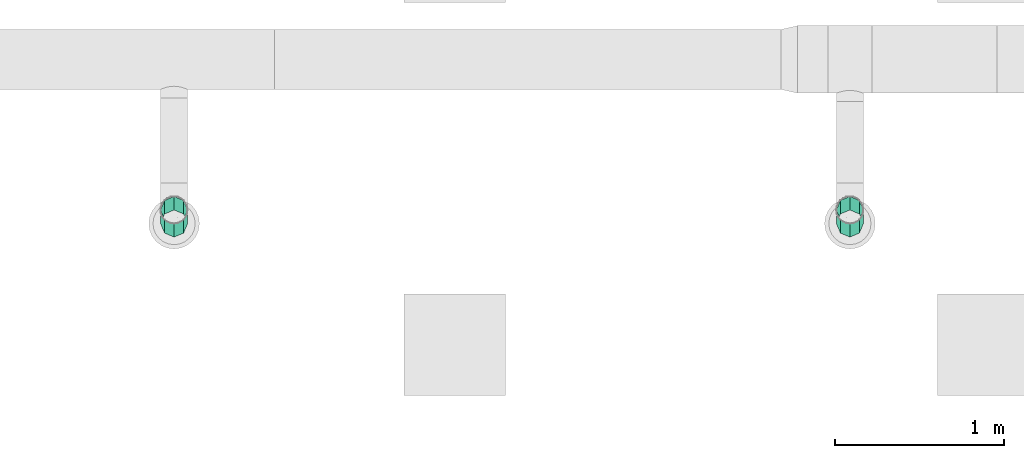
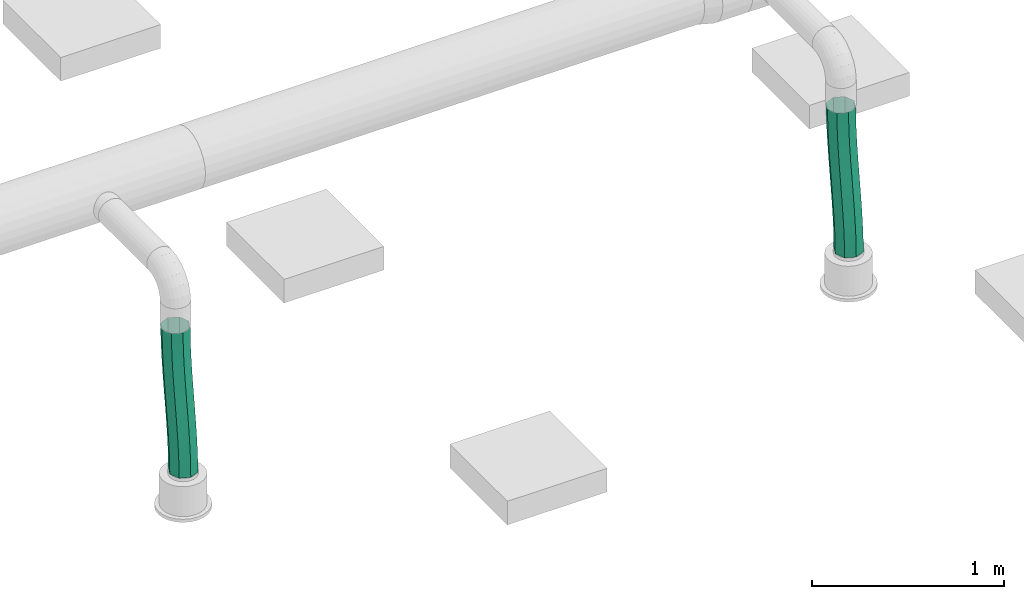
# One storey, part 245 of 374: 2 flow segments.
"""IFC2X3 building model written with IfcOpenShell, lengths in metres."""

from ifc_helpers import new_model, si_unit, direction, origin, place, context, subcontext, project, spatial, open_shell, surface_model, source, transform, mapped, element, save


model = new_model("IFC2X3")

# Units and contexts
model_context = context("Model", 3, precision=1e-05, world=origin(), true_north=direction((-0.4480736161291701, 0.8939966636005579)))
body_context = subcontext(model_context, "Body", "Model", "MODEL_VIEW")
ifc_project = project(units=[si_unit("LENGTHUNIT", "METRE"), si_unit("AREAUNIT", "SQUARE_METRE"), si_unit("VOLUMEUNIT", "CUBIC_METRE"), si_unit("PLANEANGLEUNIT", "RADIAN"), si_unit("THERMODYNAMICTEMPERATUREUNIT", "KELVIN"), si_unit("MASSUNIT", "GRAM", prefix="KILO"), si_unit("TIMEUNIT", "SECOND")], contexts=[model_context])

# Site, building, storey
site_placement = place(None, origin())
site = spatial("IfcSite", under=ifc_project, at=site_placement, Name="Site 1", CompositionType="ELEMENT")
building_placement = place(site_placement, origin())
building = spatial("IfcBuilding", under=site, at=building_placement, Name="Undefined", CompositionType="ELEMENT")
storey_placement = place(building_placement, origin())
storey = spatial("IfcBuildingStorey", under=building, at=storey_placement, Name="Rez de chauss\x8ee", CompositionType="ELEMENT", Elevation=0.0)

# Flow segments
shared_shape_1 = source(origin(), body_context, "Body", "SurfaceModel", [
    surface_model("IfcFaceBasedSurfaceModel", [(0.09591138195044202, 3.552713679e-15, 0.0), (0.05777895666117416, 0.04790565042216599, 0.0), (0.0, 0.0, 0.0), (0.03990852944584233, -0.046436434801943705, -1.080230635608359e-06), (-0.0557670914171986, -0.04966194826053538, -0.0010921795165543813), (-0.01440322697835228, -0.09480686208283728, -0.001066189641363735), (-0.10982704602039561, -0.10061373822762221, -0.0030471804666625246), (-0.06736210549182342, -0.14472448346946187, -0.002982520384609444), (-0.16253987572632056, -0.15244488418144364, -0.005638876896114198), (-0.11930632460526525, -0.19580250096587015, -0.005537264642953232), (-0.21426131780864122, -0.204753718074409, -0.008645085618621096), (-0.1705741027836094, -0.24765411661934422, -0.008517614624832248), (-0.2653408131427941, -0.25714538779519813, -0.01184746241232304), (-0.2215036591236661, -0.2998925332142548, -0.01171076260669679), (-0.31612043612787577, -0.30923056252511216, -0.01503137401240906), (-0.27243321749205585, -0.35213095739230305, -0.01490390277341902), (-0.3669345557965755, -0.36062497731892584, -0.017985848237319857), (-0.32370099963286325, -0.40398258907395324, -0.01788423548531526), (-0.4181101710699, -0.4109498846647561, -0.020503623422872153), (-0.3756452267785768, -0.4550606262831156, -0.020438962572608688), (-0.46996798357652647, -0.45983335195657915, -0.022381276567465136), (-0.4286041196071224, -0.5049782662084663, -0.022355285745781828), (-0.522824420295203, -0.5069122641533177, -0.023419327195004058), (-0.482915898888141, -0.5533487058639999, -0.02342040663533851), (-0.5770511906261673, -0.5518794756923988, -0.02342152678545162), (-0.5389187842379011, -0.5997851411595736, -0.02342152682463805), (0.030535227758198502, 0.08155715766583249, -0.04329420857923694), (-0.027979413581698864, 0.03304293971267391, -0.0432937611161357), (-0.08434932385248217, -0.01715397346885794, -0.04439715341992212), (-0.13886535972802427, -0.0685341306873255, -0.046368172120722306), (-0.19189656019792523, -0.12067723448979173, -0.048975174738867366), (-0.24380591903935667, -0.17317545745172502, -0.05199209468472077), (-0.29494752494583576, -0.22563061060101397, -0.05519829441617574), (-0.34566504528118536, -0.27765230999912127, -0.05837838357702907), (-0.3962912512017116, -0.32885733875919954, -0.061322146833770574), (-0.44714849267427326, -0.378870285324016, -0.06382461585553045), (-0.498550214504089, -0.4273253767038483, -0.06568625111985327), (-0.5508038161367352, -0.47386931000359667, -0.06671308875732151), (-0.6042948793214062, -0.518227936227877, -0.06671573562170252), (0.030139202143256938, 0.08124192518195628, -0.10452146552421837), (-0.027639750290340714, 0.03333627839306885, -0.10452146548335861), (-0.08340684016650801, -0.016325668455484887, -0.10561364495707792), (-0.13746679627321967, -0.06727745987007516, -0.10756864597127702), (-0.19017963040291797, -0.11910861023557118, -0.1101603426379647), (-0.24190107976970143, -0.1714174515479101, -0.11316655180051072), (-0.2929805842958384, -0.22380913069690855, -0.11636892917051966), (-0.343760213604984, -0.27589431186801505, -0.11955284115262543), (-0.3945743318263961, -0.3272887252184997, -0.1225073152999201), (-0.4457499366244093, -0.3776136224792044, -0.12502509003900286), (-0.49760772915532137, -0.42649707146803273, -0.12690274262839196), (-0.5504641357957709, -0.4735759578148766, -0.12794079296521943), (-0.6046908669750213, -0.5185431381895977, -0.12794299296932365), (0.05682286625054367, 0.047144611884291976, -0.14781567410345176), (0.0008200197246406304, 0.0007081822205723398, -0.14781675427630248), (-0.05349173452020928, -0.047662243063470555, -0.14888186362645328), (-0.10645061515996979, -0.09757986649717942, -0.15079819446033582), (-0.1583948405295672, -0.14865789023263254, -0.15335293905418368), (-0.20966262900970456, -0.20050951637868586, -0.1563332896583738), (-0.2605921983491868, -0.2527479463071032, -0.15952643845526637), (-0.3115217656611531, -0.30498637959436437, -0.16271957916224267), (-0.36278954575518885, -0.35683800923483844, -0.16569991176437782), (-0.4147337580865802, -0.407916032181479, -0.16825463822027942), (-0.46769262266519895, -0.4578336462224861, -0.17017096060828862), (-0.5220043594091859, -0.5062040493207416, -0.17123608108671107), (-0.5780071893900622, -0.5526404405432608, -0.17123720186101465), (0.09495529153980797, -0.0007610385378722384, -0.14781567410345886), (0.04072854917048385, -0.04572825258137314, -0.14781783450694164), (-0.012127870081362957, -0.09280715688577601, -0.14885587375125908), (-0.06398567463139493, -0.1416906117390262, -0.15073353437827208), (-0.11516128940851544, -0.19201550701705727, -0.15325132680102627), (-0.16597541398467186, -0.24340991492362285, -0.15620581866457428), (-0.21675504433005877, -0.29549509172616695, -0.15938973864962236), (-0.2678345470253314, -0.34788677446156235, -0.16259210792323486), (-0.3195559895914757, -0.4001956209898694, -0.16559829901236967), (-0.3722688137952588, -0.45202677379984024, -0.1681899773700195), (-0.4263287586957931, -0.5029785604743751, -0.17014496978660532), (-0.48209583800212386, -0.5526404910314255, -0.1712371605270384), (-0.5398747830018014, -0.6005461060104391, -0.17123720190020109), (0.12219902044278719, -0.03441254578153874, -0.10452146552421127), (0.06870796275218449, -0.07877119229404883, -0.10452407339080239), (0.016454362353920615, -0.12531513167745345, -0.10555089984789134), (-0.03494736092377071, -0.17377021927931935, -0.10741254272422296), (-0.08580460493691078, -0.22378315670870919, -0.1099150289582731), (-0.13643081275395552, -0.2749881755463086, -0.11285880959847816), (-0.187148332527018, -0.32700986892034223, -0.11603890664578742), (-0.23828993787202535, -0.37946502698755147, -0.11924509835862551), (-0.29019929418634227, -0.4319632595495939, -0.12226200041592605), (-0.3432304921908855, -0.48410637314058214, -0.12486898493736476), (-0.39774652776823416, -0.5354865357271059, -0.12683999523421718), (-0.454116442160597, -0.5856834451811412, -0.12794339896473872), (-0.5126310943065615, -0.6341976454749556, -0.1279429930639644), (0.1225950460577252, -0.034097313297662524, -0.04329420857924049), (0.0683682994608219, -0.07906453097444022, -0.04329636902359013), (0.015511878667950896, -0.12614343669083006, -0.04433440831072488), (-0.03634592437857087, -0.1750268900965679, -0.04621206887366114), (-0.08752153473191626, -0.22535178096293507, -0.048729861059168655), (-0.1383356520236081, -0.27674618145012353, -0.051684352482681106), (-0.1891152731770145, -0.3288313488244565, -0.05486827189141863), (-0.24019476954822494, -0.38122302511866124, -0.05807064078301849), (-0.291916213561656, -0.43353187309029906, -0.061076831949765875), (-0.3446290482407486, -0.48536303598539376, -0.0636685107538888), (-0.3986890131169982, -0.5363148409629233, -0.06562350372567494), (-0.4544561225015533, -0.5859767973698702, -0.06671569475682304), (-0.5122351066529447, -0.6338824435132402, -0.06671573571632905)], [open_shell([[[0, 1, 2]], [[2, 3, 0]], [[3, 2, 4]], [[4, 5, 3]], [[5, 4, 6]], [[6, 7, 5]], [[7, 6, 8]], [[8, 9, 7]], [[9, 8, 10]], [[10, 11, 9]], [[11, 10, 12]], [[12, 13, 11]], [[13, 12, 14]], [[14, 15, 13]], [[15, 14, 16]], [[16, 17, 15]], [[17, 16, 18]], [[18, 19, 17]], [[19, 18, 20]], [[20, 21, 19]], [[21, 20, 22]], [[22, 23, 21]], [[23, 22, 24]], [[24, 25, 23]], [[1, 26, 27]], [[27, 2, 1]], [[2, 27, 28]], [[28, 4, 2]], [[4, 28, 29]], [[29, 6, 4]], [[6, 29, 30]], [[30, 8, 6]], [[8, 30, 31]], [[31, 10, 8]], [[10, 31, 32]], [[32, 12, 10]], [[12, 32, 33]], [[33, 14, 12]], [[14, 33, 34]], [[34, 16, 14]], [[16, 34, 35]], [[35, 18, 16]], [[18, 35, 36]], [[36, 20, 18]], [[20, 36, 37]], [[37, 22, 20]], [[22, 37, 38]], [[38, 24, 22]], [[26, 39, 40]], [[40, 27, 26]], [[27, 40, 41]], [[41, 28, 27]], [[28, 41, 42]], [[42, 29, 28]], [[29, 42, 43]], [[43, 30, 29]], [[30, 43, 44]], [[44, 31, 30]], [[31, 44, 45]], [[45, 32, 31]], [[32, 45, 46]], [[46, 33, 32]], [[33, 46, 47]], [[47, 34, 33]], [[34, 47, 48]], [[48, 35, 34]], [[35, 48, 49]], [[49, 36, 35]], [[36, 49, 50]], [[50, 37, 36]], [[37, 50, 51]], [[51, 38, 37]], [[39, 52, 53]], [[53, 40, 39]], [[40, 53, 54]], [[54, 41, 40]], [[41, 54, 55]], [[55, 42, 41]], [[42, 55, 56]], [[56, 43, 42]], [[43, 56, 57]], [[57, 44, 43]], [[44, 57, 58]], [[58, 45, 44]], [[45, 58, 59]], [[59, 46, 45]], [[46, 59, 60]], [[60, 47, 46]], [[47, 60, 61]], [[61, 48, 47]], [[48, 61, 62]], [[62, 49, 48]], [[49, 62, 63]], [[63, 50, 49]], [[50, 63, 64]], [[64, 51, 50]], [[52, 65, 66]], [[66, 53, 52]], [[53, 66, 67]], [[67, 54, 53]], [[54, 67, 68]], [[68, 55, 54]], [[55, 68, 69]], [[69, 56, 55]], [[56, 69, 70]], [[70, 57, 56]], [[57, 70, 71]], [[71, 58, 57]], [[58, 71, 72]], [[72, 59, 58]], [[59, 72, 73]], [[73, 60, 59]], [[60, 73, 74]], [[74, 61, 60]], [[61, 74, 75]], [[75, 62, 61]], [[62, 75, 76]], [[76, 63, 62]], [[63, 76, 77]], [[77, 64, 63]], [[65, 78, 79]], [[79, 66, 65]], [[66, 79, 80]], [[80, 67, 66]], [[67, 80, 81]], [[81, 68, 67]], [[68, 81, 82]], [[82, 69, 68]], [[69, 82, 83]], [[83, 70, 69]], [[70, 83, 84]], [[84, 71, 70]], [[71, 84, 85]], [[85, 72, 71]], [[72, 85, 86]], [[86, 73, 72]], [[73, 86, 87]], [[87, 74, 73]], [[74, 87, 88]], [[88, 75, 74]], [[75, 88, 89]], [[89, 76, 75]], [[76, 89, 90]], [[90, 77, 76]], [[78, 91, 92]], [[92, 79, 78]], [[79, 92, 93]], [[93, 80, 79]], [[80, 93, 94]], [[94, 81, 80]], [[81, 94, 95]], [[95, 82, 81]], [[82, 95, 96]], [[96, 83, 82]], [[83, 96, 97]], [[97, 84, 83]], [[84, 97, 98]], [[98, 85, 84]], [[85, 98, 99]], [[99, 86, 85]], [[86, 99, 100]], [[100, 87, 86]], [[87, 100, 101]], [[101, 88, 87]], [[88, 101, 102]], [[102, 89, 88]], [[89, 102, 103]], [[103, 90, 89]], [[91, 0, 3]], [[3, 92, 91]], [[92, 3, 5]], [[5, 93, 92]], [[93, 5, 7]], [[7, 94, 93]], [[94, 7, 9]], [[9, 95, 94]], [[95, 9, 11]], [[11, 96, 95]], [[96, 11, 13]], [[13, 97, 96]], [[97, 13, 15]], [[15, 98, 97]], [[98, 15, 17]], [[17, 99, 98]], [[99, 17, 19]], [[19, 100, 99]], [[100, 19, 21]], [[21, 101, 100]], [[101, 21, 23]], [[23, 102, 101]], [[102, 23, 25]], [[25, 103, 102]]])]),
])
flow_segment_1_placement = place(storey_placement, origin())
element("IfcFlowSegment", 1, at=flow_segment_1_placement, inside=storey, Name="Tube flexible", ObjectType="Tube flexible", context=body_context, shape_type="MappedRepresentation", body=[
    mapped(shared_shape_1, transform((34.2334323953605, 2.014947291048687, 3.404961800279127), x_axis=(-0.24430322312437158, -0.572898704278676, 0.78237012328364), y_axis=(0.294653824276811, 0.724810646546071, 0.6227589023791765), z_axis=(-0.923847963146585, 0.38267035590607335, -0.008266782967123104))),
])
shared_shape_2 = source(origin(), body_context, "Body", "SurfaceModel", [
    surface_model("IfcFaceBasedSurfaceModel", [(0.09591138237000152, -3.552713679e-15, 0.0), (0.05777895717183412, 0.04790565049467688, 0.0), (0.0, 0.0, 0.0), (0.03990852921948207, -0.04643643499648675, -1.0802420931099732e-06), (-0.05576709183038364, -0.04966194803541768, -0.001092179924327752), (-0.01440322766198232, -0.09480686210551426, -0.0010661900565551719), (-0.10982704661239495, -0.10061373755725, -0.003047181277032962), (-0.06736210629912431, -0.14472448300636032, -0.0029825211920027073), (-0.1625398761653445, -0.1524448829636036, -0.00563887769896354), (-0.11930632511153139, -0.19580249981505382, -0.005537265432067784), (-0.21426131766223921, -0.2047537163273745, -0.008645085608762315), (-0.17057410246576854, -0.24765411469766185, -0.00851761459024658), (-0.26534081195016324, -0.2571453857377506, -0.01184746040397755), (-0.22150365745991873, -0.2998925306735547, -0.01171076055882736), (-0.31612043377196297, -0.30923056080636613, -0.0150313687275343), (-0.2724332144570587, -0.35213095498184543, -0.014903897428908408), (-0.36693455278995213, -0.3606249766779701, -0.017985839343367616), (-0.32370099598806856, -0.4039825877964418, -0.017884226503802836), (-0.4181101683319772, -0.4109498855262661, -0.02050361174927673), (-0.3756452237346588, -0.45506062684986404, -0.020438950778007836), (-0.46996798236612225, -0.4598333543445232, -0.022381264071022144), (-0.42860411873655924, -0.5049782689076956, -0.022355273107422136), (-0.522824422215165, -0.5069122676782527, -0.023419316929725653), (-0.48291590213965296, -0.5533487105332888, -0.023420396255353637), (-0.5770511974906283, -0.5518794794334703, -0.023421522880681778), (-0.5389187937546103, -0.5997851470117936, -0.02342152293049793), (0.030535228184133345, 0.08155715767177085, -0.04329420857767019), (-0.027979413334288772, 0.03304293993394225, -0.043293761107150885), (-0.08434932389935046, -0.017153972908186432, -0.04439715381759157), (-0.1388653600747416, -0.06853412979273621, -0.046368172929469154), (-0.19189656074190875, -0.12067723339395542, -0.04897517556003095), (-0.2438059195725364, -0.17317545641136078, -0.051992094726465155), (-0.29494752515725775, -0.2256306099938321, -0.05519829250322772), (-0.3456650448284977, -0.2776523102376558, -0.05837837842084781), (-0.3962912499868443, -0.32885733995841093, -0.061322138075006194), (-0.44714849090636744, -0.37887028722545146, -0.06382460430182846), (-0.49855021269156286, -0.4273253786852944, -0.06568623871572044), (-0.550803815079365, -0.4738693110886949, -0.0667130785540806), (-0.6042948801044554, -0.5182279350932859, -0.06671573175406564), (0.030139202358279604, 0.08124192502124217, -0.10452146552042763), (-0.027639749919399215, 0.03333627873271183, -0.1045214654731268), (-0.08340683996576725, -0.016325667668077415, -0.10561364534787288), (-0.13746679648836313, -0.06727745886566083, -0.10756864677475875), (-0.19017963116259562, -0.11910860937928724, -0.1101603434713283), (-0.24190108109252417, -0.1714174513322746, -0.11316655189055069), (-0.292980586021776, -0.22380913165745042, -0.11636892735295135), (-0.34376021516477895, -0.27589431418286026, -0.11955283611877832), (-0.39457433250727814, -0.3272887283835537, -0.12250730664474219), (-0.44574993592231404, -0.3776136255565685, -0.1250250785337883), (-0.4976077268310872, -0.42649707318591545, -0.1269027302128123), (-0.5504641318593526, -0.4735759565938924, -0.12794078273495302), (-0.6046908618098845, -0.5185431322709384, -0.12794298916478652), (0.05682286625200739, 0.04714461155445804, -0.1478156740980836), (0.0008200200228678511, 0.0007081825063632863, -0.14781675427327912), (-0.05349173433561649, -0.047662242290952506, -0.14888186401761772), (-0.10645061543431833, -0.09757986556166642, -0.1507981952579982), (-0.15839484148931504, -0.14865788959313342, -0.15335293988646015), (-0.20966263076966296, -0.20050951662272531, -0.15633328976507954), (-0.2605922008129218, -0.2527479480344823, -0.15952643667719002), (-0.31152176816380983, -0.30498638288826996, -0.1627195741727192), (-0.36278954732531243, -0.35683801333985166, -0.16569990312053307), (-0.41473375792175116, -0.40791603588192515, -0.16825462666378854), (-0.46769262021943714, -0.4578336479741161, -0.17017094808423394), (-0.522004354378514, -0.506204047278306, -0.1712360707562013), (-0.5780071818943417, -0.5526404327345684, -0.17123719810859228), (0.09495529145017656, -0.0007610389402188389, -0.14781567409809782), (0.04072854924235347, -0.04572825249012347, -0.14781783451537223), (-0.012127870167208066, -0.09280715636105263, -0.14885587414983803), (-0.0639856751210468, -0.14169061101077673, -0.15073353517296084), (-0.11516129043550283, -0.19201550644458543, -0.1532513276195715), (-0.16597541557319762, -0.2434099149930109, -0.15620581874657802), (-0.21675504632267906, -0.2954950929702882, -0.15938973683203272), (-0.26783454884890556, -0.3478867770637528, -0.162592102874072), (-0.31955599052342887, -0.4001956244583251, -0.16559829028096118), (-0.37226881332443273, -0.45202677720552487, -0.16818996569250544), (-0.42632875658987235, -0.502978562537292, -0.17014495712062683), (-0.48209583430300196, -0.5526404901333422, -0.17123715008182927), (-0.5398747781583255, -0.6005461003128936, -0.17123719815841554), (0.12219902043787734, -0.03441254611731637, -0.10452146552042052), (0.06870796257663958, -0.07877119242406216, -0.10452407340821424), (0.0164543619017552, -0.12531513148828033, -0.10555090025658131), (-0.03494736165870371, -0.17377021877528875, -0.10741254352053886), (-0.08580460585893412, -0.22378315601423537, -0.10991502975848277), (-0.13643081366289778, -0.2749881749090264, -0.11285880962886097), (-0.18714833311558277, -0.3270098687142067, -0.11603890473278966), (-0.23828993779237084, -0.3794650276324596, -0.1192450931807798), (-0.2901992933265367, -0.43196326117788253, -0.12226199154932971), (-0.3432304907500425, -0.4841063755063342, -0.12486897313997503), (-0.3977465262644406, -0.5354865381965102, -0.12683998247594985), (-0.454116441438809, -0.5856834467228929, -0.12794338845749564), (-0.5126310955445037, -0.6341976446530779, -0.12794298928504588), (0.12259504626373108, -0.03409731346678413, -0.04329420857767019), (0.06836829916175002, -0.0790645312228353, -0.04329636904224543), (0.01551187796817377, -0.12614343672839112, -0.04433440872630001), (-0.0363459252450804, -0.1750268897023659, -0.04621206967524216), (-0.0875215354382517, -0.22535178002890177, -0.048729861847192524), (-0.1383356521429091, -0.2767461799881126, -0.051684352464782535), (-0.18911527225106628, -0.32883134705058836, -0.05486826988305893), (-0.24019476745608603, -0.3812230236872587, -0.05807063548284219), (-0.2919162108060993, -0.43353187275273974, -0.061076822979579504), (-0.34462904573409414, -0.48536303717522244, -0.06366849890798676), (-0.3986890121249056, -0.5363148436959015, -0.06562349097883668), (-0.45445612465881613, -0.5859768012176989, -0.0667156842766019), (-0.5122351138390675, -0.6338824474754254, -0.06671573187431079)], [open_shell([[[0, 1, 2]], [[2, 3, 0]], [[3, 2, 4]], [[4, 5, 3]], [[5, 4, 6]], [[6, 7, 5]], [[7, 6, 8]], [[8, 9, 7]], [[9, 8, 10]], [[10, 11, 9]], [[11, 10, 12]], [[12, 13, 11]], [[13, 12, 14]], [[14, 15, 13]], [[15, 14, 16]], [[16, 17, 15]], [[17, 16, 18]], [[18, 19, 17]], [[19, 18, 20]], [[20, 21, 19]], [[21, 20, 22]], [[22, 23, 21]], [[23, 22, 24]], [[24, 25, 23]], [[1, 26, 27]], [[27, 2, 1]], [[2, 27, 28]], [[28, 4, 2]], [[4, 28, 29]], [[29, 6, 4]], [[6, 29, 30]], [[30, 8, 6]], [[8, 30, 31]], [[31, 10, 8]], [[10, 31, 32]], [[32, 12, 10]], [[12, 32, 33]], [[33, 14, 12]], [[14, 33, 34]], [[34, 16, 14]], [[16, 34, 35]], [[35, 18, 16]], [[18, 35, 36]], [[36, 20, 18]], [[20, 36, 37]], [[37, 22, 20]], [[22, 37, 38]], [[38, 24, 22]], [[26, 39, 40]], [[40, 27, 26]], [[27, 40, 41]], [[41, 28, 27]], [[28, 41, 42]], [[42, 29, 28]], [[29, 42, 43]], [[43, 30, 29]], [[30, 43, 44]], [[44, 31, 30]], [[31, 44, 45]], [[45, 32, 31]], [[32, 45, 46]], [[46, 33, 32]], [[33, 46, 47]], [[47, 34, 33]], [[34, 47, 48]], [[48, 35, 34]], [[35, 48, 49]], [[49, 36, 35]], [[36, 49, 50]], [[50, 37, 36]], [[37, 50, 51]], [[51, 38, 37]], [[39, 52, 53]], [[53, 40, 39]], [[40, 53, 54]], [[54, 41, 40]], [[41, 54, 55]], [[55, 42, 41]], [[42, 55, 56]], [[56, 43, 42]], [[43, 56, 57]], [[57, 44, 43]], [[44, 57, 58]], [[58, 45, 44]], [[45, 58, 59]], [[59, 46, 45]], [[46, 59, 60]], [[60, 47, 46]], [[47, 60, 61]], [[61, 48, 47]], [[48, 61, 62]], [[62, 49, 48]], [[49, 62, 63]], [[63, 50, 49]], [[50, 63, 64]], [[64, 51, 50]], [[52, 65, 66]], [[66, 53, 52]], [[53, 66, 67]], [[67, 54, 53]], [[54, 67, 68]], [[68, 55, 54]], [[55, 68, 69]], [[69, 56, 55]], [[56, 69, 70]], [[70, 57, 56]], [[57, 70, 71]], [[71, 58, 57]], [[58, 71, 72]], [[72, 59, 58]], [[59, 72, 73]], [[73, 60, 59]], [[60, 73, 74]], [[74, 61, 60]], [[61, 74, 75]], [[75, 62, 61]], [[62, 75, 76]], [[76, 63, 62]], [[63, 76, 77]], [[77, 64, 63]], [[65, 78, 79]], [[79, 66, 65]], [[66, 79, 80]], [[80, 67, 66]], [[67, 80, 81]], [[81, 68, 67]], [[68, 81, 82]], [[82, 69, 68]], [[69, 82, 83]], [[83, 70, 69]], [[70, 83, 84]], [[84, 71, 70]], [[71, 84, 85]], [[85, 72, 71]], [[72, 85, 86]], [[86, 73, 72]], [[73, 86, 87]], [[87, 74, 73]], [[74, 87, 88]], [[88, 75, 74]], [[75, 88, 89]], [[89, 76, 75]], [[76, 89, 90]], [[90, 77, 76]], [[78, 91, 92]], [[92, 79, 78]], [[79, 92, 93]], [[93, 80, 79]], [[80, 93, 94]], [[94, 81, 80]], [[81, 94, 95]], [[95, 82, 81]], [[82, 95, 96]], [[96, 83, 82]], [[83, 96, 97]], [[97, 84, 83]], [[84, 97, 98]], [[98, 85, 84]], [[85, 98, 99]], [[99, 86, 85]], [[86, 99, 100]], [[100, 87, 86]], [[87, 100, 101]], [[101, 88, 87]], [[88, 101, 102]], [[102, 89, 88]], [[89, 102, 103]], [[103, 90, 89]], [[91, 0, 3]], [[3, 92, 91]], [[92, 3, 5]], [[5, 93, 92]], [[93, 5, 7]], [[7, 94, 93]], [[94, 7, 9]], [[9, 95, 94]], [[95, 9, 11]], [[11, 96, 95]], [[96, 11, 13]], [[13, 97, 96]], [[97, 13, 15]], [[15, 98, 97]], [[98, 15, 17]], [[17, 99, 98]], [[99, 17, 19]], [[19, 100, 99]], [[100, 19, 21]], [[21, 101, 100]], [[101, 21, 23]], [[23, 102, 101]], [[102, 23, 25]], [[25, 103, 102]]])]),
])
flow_segment_2_placement = place(storey_placement, origin())
element("IfcFlowSegment", 2, at=flow_segment_2_placement, inside=storey, Name="Tube flexible", ObjectType="Tube flexible", context=body_context, shape_type="MappedRepresentation", body=[
    mapped(shared_shape_2, transform((38.233432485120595, 2.0149472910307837, 3.4049617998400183), x_axis=(-0.24430322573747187, -0.5728987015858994, 0.782370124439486), y_axis=(0.29465382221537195, 0.7248106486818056, 0.6227589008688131), z_axis=(-0.9238479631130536, 0.38267035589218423, -0.008266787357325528))),
])

save(model, "model.ifc")
